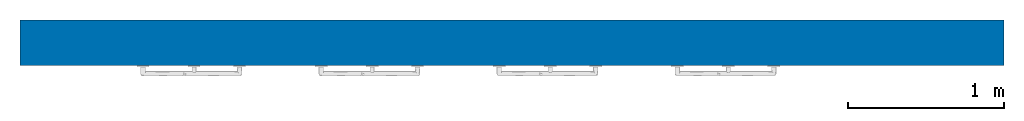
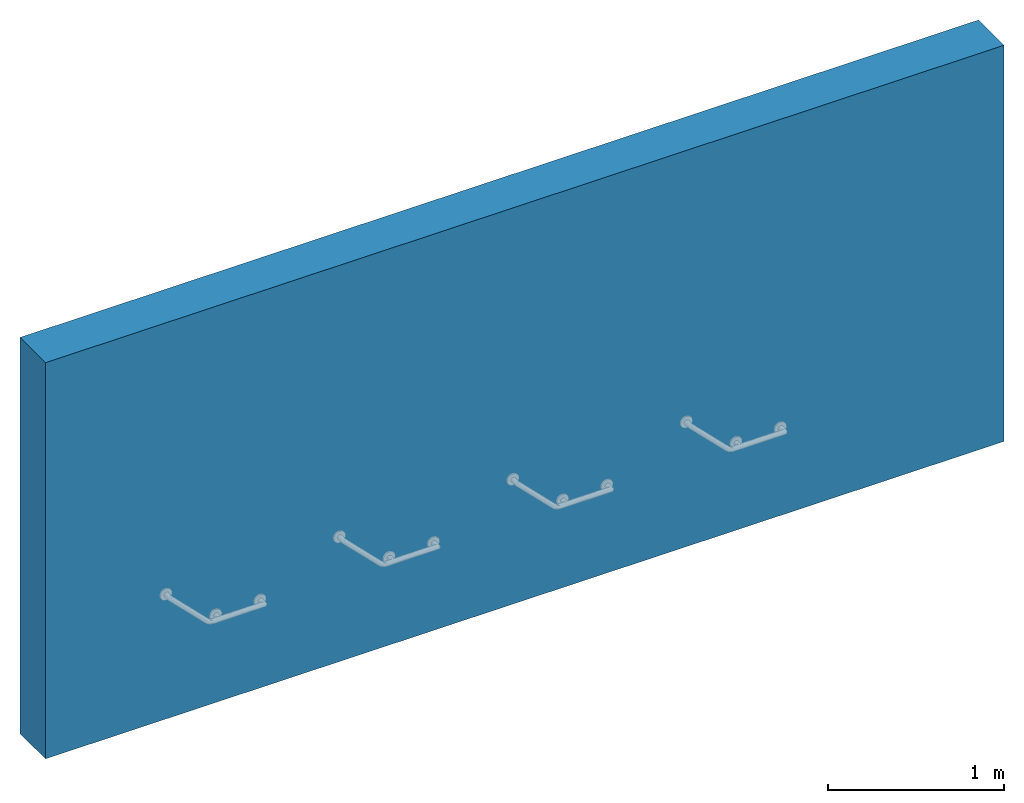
# One storey, incomplete: 1 wall.
"""IFC2X3 building model written with IfcOpenShell, lengths in millimetres."""

from ifc_helpers import new_model, entity, si_unit, converted_unit, derived_unit, direction, frame, frame_2d, origin, place, context, subcontext, project, spatial, rectangle, extrude, material, layer, layer_set, layer_usage, type_object, element, save


model = new_model("IFC2X3")

# Units and contexts
model_context = context("Model", 3, precision=0.01, world=origin(), true_north=direction((6.12303176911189e-17, 1.0)))
body_context = subcontext(model_context, "Body", "Model", "MODEL_VIEW")
ifc_project = project(units=[si_unit("LENGTHUNIT", "METRE", prefix="MILLI"), si_unit("AREAUNIT", "SQUARE_METRE"), si_unit("VOLUMEUNIT", "CUBIC_METRE"), converted_unit("PLANEANGLEUNIT", "DEGREE", entity("IfcRatioMeasure", 0.0174532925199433), si_unit("PLANEANGLEUNIT", "RADIAN"), dimensions=[0, 0, 0, 0, 0, 0, 0]), si_unit("MASSUNIT", "GRAM", prefix="KILO"), derived_unit("MASSDENSITYUNIT", [(si_unit("MASSUNIT", "GRAM", prefix="KILO"), 1), (si_unit("LENGTHUNIT", "METRE"), -3)]), derived_unit("MOMENTOFINERTIAUNIT", [(si_unit("LENGTHUNIT", "METRE"), 4)]), si_unit("TIMEUNIT", "SECOND"), si_unit("FREQUENCYUNIT", "HERTZ"), si_unit("THERMODYNAMICTEMPERATUREUNIT", "DEGREE_CELSIUS"), derived_unit("THERMALTRANSMITTANCEUNIT", [(si_unit("MASSUNIT", "GRAM", prefix="KILO"), 1), (si_unit("THERMODYNAMICTEMPERATUREUNIT", "KELVIN"), -1), (si_unit("TIMEUNIT", "SECOND"), -3)]), derived_unit("VOLUMETRICFLOWRATEUNIT", [(si_unit("LENGTHUNIT", "METRE"), 3), (si_unit("TIMEUNIT", "SECOND"), -1)]), si_unit("ELECTRICCURRENTUNIT", "AMPERE"), si_unit("ELECTRICVOLTAGEUNIT", "VOLT"), si_unit("POWERUNIT", "WATT"), si_unit("FORCEUNIT", "NEWTON", prefix="KILO"), si_unit("ILLUMINANCEUNIT", "LUX"), si_unit("LUMINOUSFLUXUNIT", "LUMEN"), si_unit("LUMINOUSINTENSITYUNIT", "CANDELA"), derived_unit("USERDEFINED", [(si_unit("MASSUNIT", "GRAM", prefix="KILO"), -1), (si_unit("LENGTHUNIT", "METRE"), -2), (si_unit("TIMEUNIT", "SECOND"), 3), (si_unit("LUMINOUSFLUXUNIT", "LUMEN"), 1)]), derived_unit("LINEARVELOCITYUNIT", [(si_unit("LENGTHUNIT", "METRE"), 1), (si_unit("TIMEUNIT", "SECOND"), -1)]), si_unit("PRESSUREUNIT", "PASCAL"), derived_unit("USERDEFINED", [(si_unit("LENGTHUNIT", "METRE"), -2), (si_unit("MASSUNIT", "GRAM", prefix="KILO"), 1), (si_unit("TIMEUNIT", "SECOND"), -2)]), derived_unit("LINEARFORCEUNIT", [(si_unit("MASSUNIT", "GRAM", prefix="KILO"), 1), (si_unit("LENGTHUNIT", "METRE"), 1), (si_unit("TIMEUNIT", "SECOND"), -2), (si_unit("LENGTHUNIT", "METRE"), -1)]), derived_unit("PLANARFORCEUNIT", [(si_unit("MASSUNIT", "GRAM", prefix="KILO"), 1), (si_unit("LENGTHUNIT", "METRE"), 1), (si_unit("TIMEUNIT", "SECOND"), -2), (si_unit("LENGTHUNIT", "METRE"), -2)])], contexts=[model_context])

# Site, building, storey
site_placement = place(None, origin())
site = spatial("IfcSite", under=ifc_project, at=site_placement, Name="Default", CompositionType="ELEMENT")
building_placement = place(site_placement, origin())
building = spatial("IfcBuilding", under=site, at=building_placement, CompositionType="ELEMENT")
storey_placement = place(building_placement, origin())
storey = spatial("IfcBuildingStorey", under=building, at=storey_placement, Name="Level 0", CompositionType="ELEMENT", Elevation=0.0)

# Wall
ifc_material_1 = material(Name="Brick, Common")
ifc_layer_1 = layer(ifc_material_1, 102.5)
ifc_material_2 = material(Name="Fiberglass Batt")
ifc_layer_2 = layer(ifc_material_2, 75.0)
ifc_material_3 = material(Name="Concrete Masonry Units _Low Density")
ifc_layer_3 = layer(ifc_material_3, 100.0)
ifc_material_4 = material(Name="Plaster")
ifc_layer_4 = layer(ifc_material_4, 12.5)
ifc_layer_set = layer_set([ifc_layer_1, ifc_layer_2, ifc_layer_3, ifc_layer_4], Name="Basic Wall:Wall-Ext_102Bwk-75Ins-100LBlk-12P")
ifc_layer_usage = layer_usage(ifc_layer_set, "AXIS2", "NEGATIVE", 145.0)
wall_type = type_object("IfcWallType", Name="Basic Wall:Wall-Ext_102Bwk-75Ins-100LBlk-12P", PredefinedType="STANDARD", material=ifc_layer_set)
wall_placement = place(storey_placement, frame((-8059.96315358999, 2054.72807473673, 0.0)))
element("IfcWallStandardCase", 1, at=wall_placement, inside=storey, type_object=wall_type, material=ifc_layer_usage, Name="Basic Wall:Wall-Ext_102Bwk-75Ins-100LBlk-12P", ObjectType="Basic Wall:Wall-Ext_102Bwk-75Ins-100LBlk-12P", context=body_context, shape_type="SweptSolid", body=[
    extrude(rectangle(XDim=6300.0, YDim=290.0, at=frame_2d((3150.0, 4.2632564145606e-14), x_axis=(-1.0, 0.0))), origin(), (0.0, 0.0, 1.0), 2752.94143067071),
])

save(model, "model.ifc")
